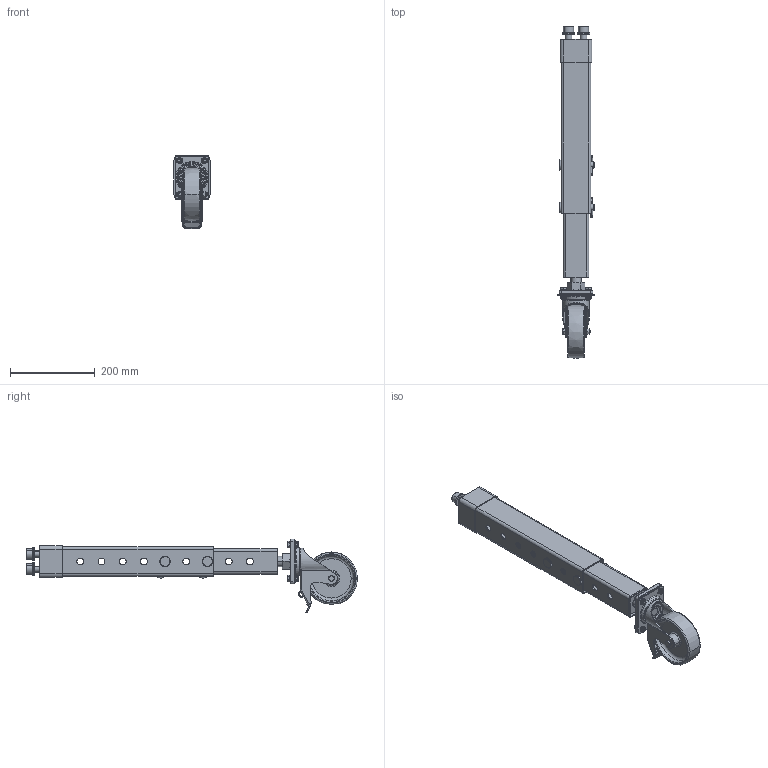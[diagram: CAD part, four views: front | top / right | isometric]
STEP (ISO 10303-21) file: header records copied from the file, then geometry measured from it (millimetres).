
FILE_DESCRIPTION (( 'STEP AP203' ), '1' );
FILE_NAME ('160879.X.step', '2014-08-11T17:01:44', ( 'User' ), ( '' ), 'SwSTEP 2.0', 'SolidWorks 2014', '' );
FILE_SCHEMA (( 'CONFIG_CONTROL_DESIGN' ));
Length unit declared in the file: millimetre
Products named in the file (18): Beilagscheibe DIN 125_16_Foto; Platte Rolle^Verstelleinheit Rolle_160879.X; Sechskantschraube M8x20 DIN 931_Detailliert; M24x1,5 H19 Din 934; DIN EN ISO 10511 - M8 - C_DIN EN ISO 10511 - M8 - C; Gewindestange M24x1,5_90^Verstelleinheit Rolle_160879.X_Einfach; Hohlprofil 100x100x3^160879.X_fertigung; 160879.X; Verstelleinheit Rolle^160879.X; Innenrohr^160879.X; Klammer Fu綎160879.X; Plastik gelenk^Rolle D125; 16_Bolzen für Höhenverst. ExtremeFuß; Rolle 125^Rolle D125; 160873 Manschette_Foto_V1 Kreis; Halterung^Rolle D125; Zylinderschraube M16x50_DIN 912_Foto_Detailliert; Rolle D125
Assembly tree (27 placements, depth 3):
  160879.X
    Hohlprofil 100x100x3^160879.X_fertigung
    Innenrohr^160879.X
    Rolle D125
      Plastik gelenk^Rolle D125
      Rolle 125^Rolle D125
      Halterung^Rolle D125
    Verstelleinheit Rolle^160879.X
      Platte Rolle^Verstelleinheit Rolle_160879.X
      M24x1,5 H19 Din 934
      Gewindestange M24x1,5_90^Verstelleinheit Rolle_160879.X_Einfach
    Klammer Fu綎160879.X  x2
    16_Bolzen für Höhenverst. ExtremeFuß  x2
    160873 Manschette_Foto_V1 Kreis
    Zylinderschraube M16x50_DIN 912_Foto_Detailliert  x2
    Beilagscheibe DIN 125_16_Foto  x2
    Sechskantschraube M8x20 DIN 931_Detailliert  x4
    DIN EN ISO 10511 - M8 - C_DIN EN ISO 10511 - M8 - C  x4
Bounding box: 85 x 782.88 x 173.66 mm (x, y, z)
Volume: 1302949.5 mm3; surface area: 606752.9 mm2
Topology: 25 solids, 25 shells, 1220 faces, 3429 edges, 2289 vertices
Faces by surface type: plane 414, cylinder 383, cone 188, torus 134, bspline 101
Entity records: 48632 total; most frequent: CARTESIAN_POINT 20377, ORIENTED_EDGE 5846, DIRECTION 5107, EDGE_CURVE 2923, VERTEX_POINT 1995, AXIS2_PLACEMENT_3D 1936, LINE 1235, VECTOR 1235
